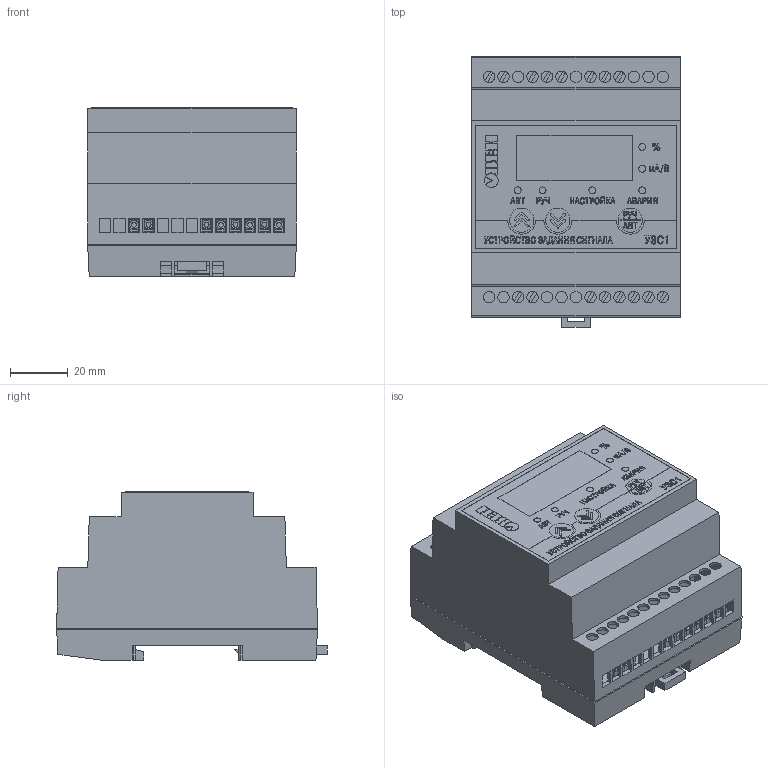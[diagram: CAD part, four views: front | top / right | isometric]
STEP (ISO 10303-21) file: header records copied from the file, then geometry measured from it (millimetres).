
FILE_DESCRIPTION (( 'STEP AP214' ), '1' );
FILE_NAME ('3D Ìîäåëü ÓÇÑ1.Ä.STEP', '2017-04-02T13:24:18', ( '' ), ( '' ), 'SwSTEP 2.0', 'SolidWorks 2014', '' );
FILE_SCHEMA (( 'AUTOMOTIVE_DESIGN' ));
Length unit declared in the file: millimetre
Products named in the file (5): Ïàíåëü ëèöåâàÿ ÓÇÑ1.Ä; Êîðïóñ ÓÇÑ1.Ä4; Çàùåëêà(Ä)_ñèí; Êëåììà íèçêàÿ_11õ8õ5ìì; 3D Ìîäåëü ÓÇÑ1.Ä
Assembly tree (19 placements, depth 2):
  3D Ìîäåëü ÓÇÑ1.Ä
    Êëåììà íèçêàÿ_11õ8õ5ìì  x16
    Çàùåëêà(Ä)_ñèí
    Êîðïóñ ÓÇÑ1.Ä4
    Ïàíåëü ëèöåâàÿ ÓÇÑ1.Ä
Bounding box: 72 x 93.4 x 58.1 mm (x, y, z)
Volume: 225920.4 mm3; surface area: 64248.4 mm2
Topology: 19 solids, 19 shells, 2291 faces, 6132 edges, 4066 vertices
Faces by surface type: plane 1465, bspline 622, cylinder 204
Entity records: 62946 total; most frequent: CARTESIAN_POINT 17371, ORIENTED_EDGE 9144, DIRECTION 5620, EDGE_CURVE 4572, VECTOR 3150, LINE 3150, VERTEX_POINT 3046, EDGE_LOOP 1900
